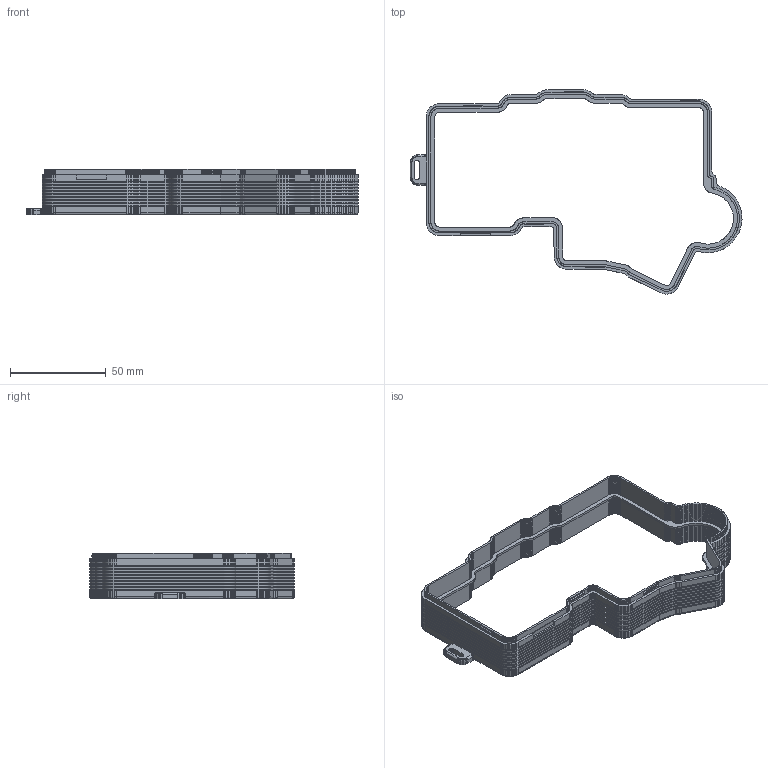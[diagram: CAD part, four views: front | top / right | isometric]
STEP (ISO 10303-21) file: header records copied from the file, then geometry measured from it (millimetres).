
FILE_DESCRIPTION(('Open CASCADE Model'),'2;1');
FILE_NAME('Open CASCADE Shape Model','2026-10-14T03:51:02',('Author'),( 'Open CASCADE'),'Open CASCADE STEP processor 8.0','Open CASCADE 8.0' ,'Unknown');
FILE_SCHEMA(('AUTOMOTIVE_DESIGN { 1 0 10303 214 1 1 1 1 }'));
Products named in the file (1): Open CASCADE STEP translator 8.0 3
Bounding box: 173.31 x 106.57 x 23.85 mm (x, y, z)
Volume: 26183.1 mm3; surface area: 31172.7 mm2
Topology: 1 solids, 1 shells, 5953 faces, 17560 edges, 11635 vertices
Faces by surface type: plane 5736, cylinder 217
Entity records: 419212 total; most frequent: CARTESIAN_POINT 76474, DIRECTION 60116, LINE 47760, VECTOR 47760, ORIENTED_EDGE 35120, PCURVE 35120, DEFINITIONAL_REPRESENTATION 35120, EDGE_CURVE 17560
